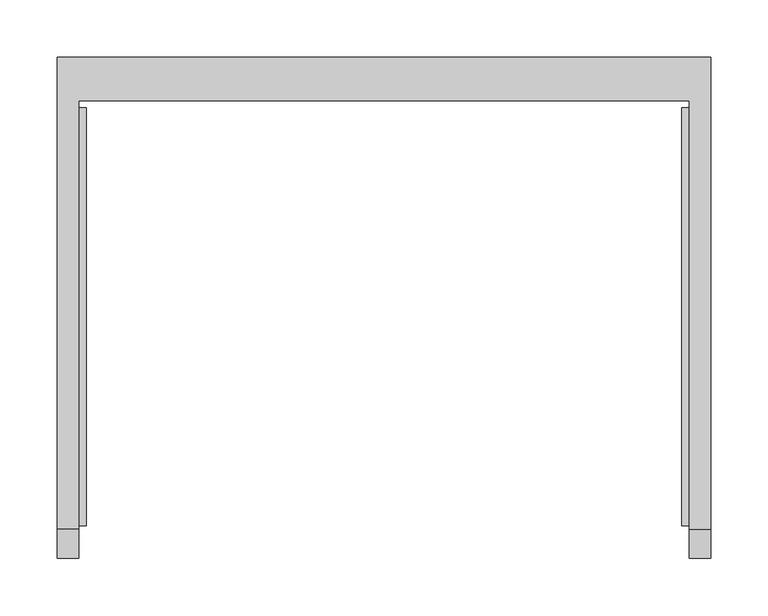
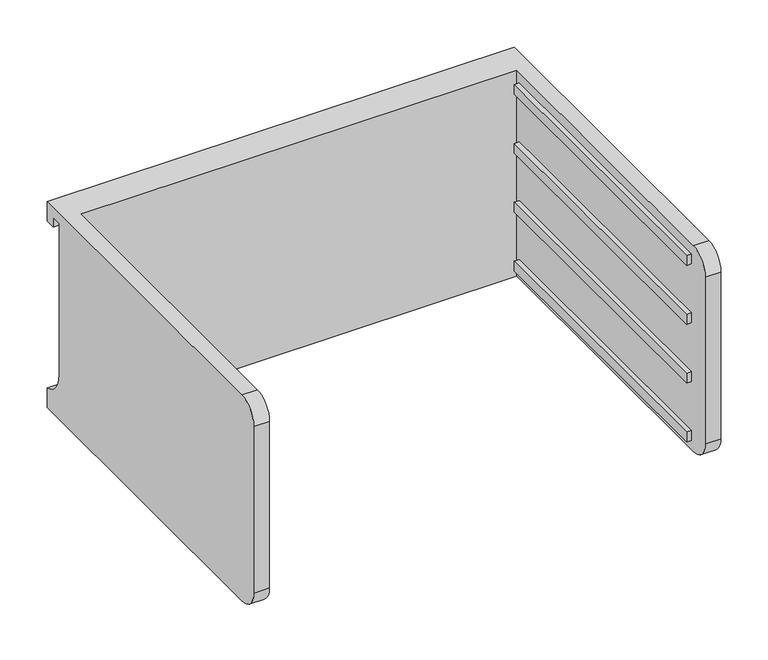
"""IFC4 building model written with IfcOpenShell, lengths in millimetres: furniture geometry."""

from ifc_helpers import new_model, si_unit, frame, origin, place, context, project, spatial, polyline, circle_curve, outline, extrude, source, transform, mapped, element, save
from ifc_brep_helpers import plane_surface, cylinder_surface, revolved_surface, advanced_brep


def furniture_d69c6384(model_context):
    return source(origin(), model_context, "Body", "SolidModel", [
        advanced_brep(
        [(-171.7622951, -331.6523397, 488.95), (-171.7622951, -357.0523397, 463.55), (-171.7622951, -357.0523397, 247.65), (-171.7622951, -331.6523397, 222.25), (-171.7622951, 43.0421197, 222.25), (-171.7622951, 43.0421197, 488.95), (-190.8122951, -331.6523397, 222.25), (-190.8122951, -357.0523397, 247.65), (-190.8122951, -357.0523397, 463.55), (-190.8122951, -331.6523397, 488.95), (-190.8122951, 81.0976603, 488.95), (-190.8122951, 81.0976603, 463.55), (-190.8122951, 68.4421197, 463.55), (-190.8122951, 68.4421197, 476.25), (-190.8122951, 55.7421197, 476.25), (-190.8122951, 55.7421197, 280.19502), (-190.8122951, 81.0976603, 247.65), (-190.8122951, 81.0976603, 222.25), (380.6877049, 81.0976603, 222.25), (380.6877049, -331.6523397, 222.25), (361.6377049, -331.6523397, 222.25), (361.6377049, 43.0421197, 222.25), (361.6377049, 43.0421197, 488.95), (361.6377049, -331.6523397, 488.95), (380.6877049, -331.6523397, 488.95), (380.6877049, 81.0976603, 488.95), (380.6877049, 81.0976603, 247.65), (380.6877049, 55.7421197, 280.19502), (380.6877049, 55.7421197, 476.25), (380.6877049, 68.4421197, 476.25), (380.6877049, 68.4421197, 463.55), (380.6877049, 81.0976603, 463.55), (380.6877049, -357.0523397, 463.55), (380.6877049, -357.0523397, 247.65), (361.6377049, -357.0523397, 247.65), (361.6377049, -357.0523397, 463.55)],
        [
            (0, 1, circle_curve(frame((-171.7622951, -331.6523397, 463.55), z_axis=(1.0, 0.0, 0.0), x_axis=(0.0, 0.0, 1.0)), 25.4)),
            (1, 2),
            (2, 3, circle_curve(frame((-171.7622951, -331.6523397, 247.65), z_axis=(1.0, 0.0, 0.0), x_axis=(0.0, 0.0, 1.0)), 25.4)),
            (3, 4),
            (4, 5),
            (5, 0),
            (6, 7, circle_curve(frame((-190.8122951, -331.6523397, 247.65), z_axis=(-1.0, 0.0, 0.0), x_axis=(0.0, 0.0, 1.0)), 25.4)),
            (7, 8),
            (8, 9, circle_curve(frame((-190.8122951, -331.6523397, 463.55), z_axis=(-1.0, 0.0, 0.0), x_axis=(0.0, 0.0, 1.0)), 25.4)),
            (9, 10),
            (10, 11),
            (11, 12),
            (12, 13),
            (13, 14),
            (14, 15),
            (15, 16, circle_curve(frame((-190.8122951, 89.3064162, 280.19502), z_axis=(1.0, 0.0, 0.0), x_axis=(0.0, 0.0, 1.0)), 33.5642965)),
            (16, 17),
            (17, 6),
            (0, 9),
            (8, 1),
            (7, 2),
            (6, 3),
            (17, 18),
            (18, 19),
            (19, 20),
            (20, 21),
            (21, 4),
            (5, 22),
            (22, 23),
            (23, 24),
            (24, 25),
            (25, 10),
            (18, 26),
            (26, 27, circle_curve(frame((380.6877049, 89.3064162, 280.19502), z_axis=(-1.0, 0.0, 0.0), x_axis=(0.0, 0.0, 1.0)), 33.5642965)),
            (27, 28),
            (28, 29),
            (29, 30),
            (30, 31),
            (31, 25),
            (24, 32, circle_curve(frame((380.6877049, -331.6523397, 463.55), z_axis=(1.0, 0.0, 0.0), x_axis=(0.0, 0.0, 1.0)), 25.4)),
            (32, 33),
            (33, 19, circle_curve(frame((380.6877049, -331.6523397, 247.65), z_axis=(1.0, 0.0, 0.0), x_axis=(0.0, 0.0, 1.0)), 25.4)),
            (16, 26),
            (15, 27),
            (14, 28),
            (13, 29),
            (12, 30),
            (11, 31),
            (21, 22),
            (20, 34, circle_curve(frame((361.6377049, -331.6523397, 247.65), z_axis=(-1.0, 0.0, 0.0), x_axis=(0.0, 0.0, 1.0)), 25.4)),
            (34, 35),
            (35, 23, circle_curve(frame((361.6377049, -331.6523397, 463.55), z_axis=(-1.0, 0.0, 0.0), x_axis=(0.0, 0.0, 1.0)), 25.4)),
            (35, 32),
            (34, 33),
        ],
        [
            plane_surface(frame((-171.7622951, -331.6523397, 488.95), z_axis=(1.0, 0.0, 0.0), x_axis=(0.0, -1.0, 0.0))),
            plane_surface(frame((-190.8122951, -331.6523397, 488.95), z_axis=(-1.0, 0.0, 0.0), x_axis=(0.0, 1.0, 0.0))),
            cylinder_surface(frame((-190.8122951, -331.6523397, 463.55), z_axis=(1.0, 0.0, 0.0), x_axis=(0.0, 0.0, 1.0)), 25.4),
            plane_surface(frame((-171.7622951, -357.0523397, 463.55), z_axis=(0.0, -1.0, 0.0), x_axis=(-1.0, 0.0, 0.0))),
            cylinder_surface(frame((-190.8122951, -331.6523397, 247.65), z_axis=(1.0, 0.0, 0.0), x_axis=(0.0, 0.0, 1.0)), 25.4),
            plane_surface(frame((-171.7622951, -331.6523397, 222.25), z_axis=(0.0, 0.0, -1.0), x_axis=(-1.0, 0.0, 0.0))),
            plane_surface(frame((-171.7622951, 43.0421197, 488.95), z_axis=(0.0, 0.0, 1.0), x_axis=(-1.0, 0.0, 0.0))),
            plane_surface(frame((380.6877049, 81.0976603, 247.65), z_axis=(1.0, 0.0, 0.0), x_axis=(0.0, 0.0, 1.0))),
            plane_surface(frame((380.6877049, 81.0976603, 222.25), z_axis=(0.0, 1.0, 0.0), x_axis=(-1.0, 0.0, 0.0))),
            revolved_surface(polyline([(-190.8122951, 89.3064162, 313.7593165), (380.68770489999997, 89.3064162, 313.7593165)]), (-190.8122951, 89.3064162, 280.19502), (-1.0, 0.0, 0.0)),
            plane_surface(frame((380.6877049, 55.7421197, 280.19502), z_axis=(0.0, 1.0, 0.0), x_axis=(-1.0, 0.0, 0.0))),
            plane_surface(frame((380.6877049, 55.7421197, 476.25), z_axis=(0.0, 0.0, -1.0), x_axis=(-1.0, 0.0, 0.0))),
            plane_surface(frame((380.6877049, 68.4421197, 476.25), z_axis=(0.0, -1.0, 0.0), x_axis=(-1.0, 0.0, 0.0))),
            plane_surface(frame((380.6877049, 68.4421197, 463.55), z_axis=(0.0, 0.0, -1.0), x_axis=(-1.0, 0.0, 0.0))),
            plane_surface(frame((380.6877049, 81.0976603, 463.55), z_axis=(0.0, 1.0, 0.0), x_axis=(-1.0, 0.0, 0.0))),
            plane_surface(frame((380.6877049, 43.0421197, 488.95), z_axis=(0.0, -1.0, 0.0), x_axis=(-1.0, 0.0, 0.0))),
            plane_surface(frame((361.6377049, -331.6523397, 488.95), z_axis=(-1.0, 0.0, 0.0), x_axis=(0.0, 1.0, 0.0))),
            cylinder_surface(frame((361.6377049, -331.6523397, 463.55), z_axis=(1.0, 0.0, 0.0), x_axis=(0.0, 0.0, 1.0)), 25.4),
            plane_surface(frame((380.6877049, -357.0523397, 463.55), z_axis=(0.0, -1.0, 0.0), x_axis=(-1.0, 0.0, 0.0))),
            cylinder_surface(frame((361.6377049, -331.6523397, 247.65), z_axis=(1.0, 0.0, 0.0), x_axis=(0.0, 0.0, 1.0)), 25.4),
        ],
        [
            (0, [[1, 2, 3, 4, 5, 6]]),
            (1, [[7, 8, 9, 10, 11, 12, 13, 14, 15, 16, 17, 18]]),
            (2, [[-1, 19, -9, 20]]),
            (3, [[-2, -20, -8, 21]]),
            (4, [[-3, -21, -7, 22]]),
            (5, [[-4, -22, -18, 23, 24, 25, 26, 27]]),
            (6, [[-6, 28, 29, 30, 31, 32, -10, -19]]),
            (7, [[-24, 33, 34, 35, 36, 37, 38, 39, -31, 40, 41, 42]]),
            (8, [[-33, -23, -17, 43]]),
            (9, [[-34, -43, -16, 44]]),
            (10, [[-35, -44, -15, 45]]),
            (11, [[-36, -45, -14, 46]]),
            (12, [[-37, -46, -13, 47]]),
            (13, [[-38, -47, -12, 48]]),
            (14, [[-39, -48, -11, -32]]),
            (15, [[-5, -27, 49, -28]]),
            (16, [[-29, -49, -26, 50, 51, 52]]),
            (17, [[-40, -30, -52, 53]]),
            (18, [[-41, -53, -51, 54]]),
            (19, [[-42, -54, -50, -25]]),
        ],
    ),
        extrude(outline(polyline([(355.2877049, -328.4773397), (355.2877049, 36.6921197), (361.6377049, 36.6921197), (361.6377049, -328.4773397), (355.2877049, -328.4773397)])), frame((0.0, 0.0, 311.15), z_axis=(0.0, 0.0, 1.0), x_axis=(1.0, 0.0, 0.0)), (0.0, 0.0, 1.0), 12.7),
        extrude(outline(polyline([(355.2877049, -328.4773397), (355.2877049, 36.6921197), (361.6377049, 36.6921197), (361.6377049, -328.4773397), (355.2877049, -328.4773397)])), frame((0.0, 0.0, 387.35), z_axis=(0.0, 0.0, 1.0), x_axis=(1.0, 0.0, 0.0)), (0.0, 0.0, 1.0), 12.7),
        extrude(outline(polyline([(355.2877049, -328.4773397), (355.2877049, 36.6921197), (361.6377049, 36.6921197), (361.6377049, -328.4773397), (355.2877049, -328.4773397)])), frame((0.0, 0.0, 463.55), z_axis=(0.0, 0.0, 1.0), x_axis=(1.0, 0.0, 0.0)), (0.0, 0.0, 1.0), 12.7),
        extrude(outline(polyline([(355.2877049, -328.4773397), (355.2877049, 36.6921197), (361.6377049, 36.6921197), (361.6377049, -328.4773397), (355.2877049, -328.4773397)])), frame((0.0, 0.0, 234.95), z_axis=(0.0, 0.0, 1.0), x_axis=(1.0, 0.0, 0.0)), (0.0, 0.0, 1.0), 12.7),
        extrude(outline(polyline([(-171.7622951, -328.4773397), (-171.7622951, 36.6921197), (-165.4122951, 36.6921197), (-165.4122951, -328.4773397), (-171.7622951, -328.4773397)])), frame((0.0, 0.0, 311.15), z_axis=(0.0, 0.0, 1.0), x_axis=(1.0, 0.0, 0.0)), (0.0, 0.0, 1.0), 12.7),
        extrude(outline(polyline([(-171.7622951, -328.4773397), (-171.7622951, 36.6921197), (-165.4122951, 36.6921197), (-165.4122951, -328.4773397), (-171.7622951, -328.4773397)])), frame((0.0, 0.0, 387.35), z_axis=(0.0, 0.0, 1.0), x_axis=(1.0, 0.0, 0.0)), (0.0, 0.0, 1.0), 12.7),
        extrude(outline(polyline([(-171.7622951, -328.4773397), (-171.7622951, 36.6921197), (-165.4122951, 36.6921197), (-165.4122951, -328.4773397), (-171.7622951, -328.4773397)])), frame((0.0, 0.0, 463.55), z_axis=(0.0, 0.0, 1.0), x_axis=(1.0, 0.0, 0.0)), (0.0, 0.0, 1.0), 12.7),
        extrude(outline(polyline([(-171.7622951, -328.4773397), (-171.7622951, 36.6921197), (-165.4122951, 36.6921197), (-165.4122951, -328.4773397), (-171.7622951, -328.4773397)])), frame((0.0, 0.0, 234.95), z_axis=(0.0, 0.0, 1.0), x_axis=(1.0, 0.0, 0.0)), (0.0, 0.0, 1.0), 12.7),
    ])


if __name__ == "__main__":
    model = new_model("IFC4")
    model_context = context("Model", 3, world=origin())
    ifc_project = project(units=[si_unit("LENGTHUNIT", "METRE", prefix="MILLI")], contexts=[model_context])
    site = spatial("IfcSite", under=ifc_project)
    building = spatial("IfcBuilding", under=site)
    placement = place(None, origin())
    furniture_shape = furniture_d69c6384(model_context)
    element("IfcFurniture", 1, ObjectType="HermanMiller_CoStruc_CO205_CFrame : 10\"H x 17\"D x 22\"W", at=placement, inside=building, context=model_context, shape_type="MappedRepresentation", body=[
        mapped(furniture_shape, transform((0.0, 0.0, 0.0), x_axis=(1.0, 0.0, 0.0), y_axis=(0.0, 1.0, 0.0), z_axis=(0.0, 0.0, 1.0))),
    ])
    save(model, "model.ifc")
